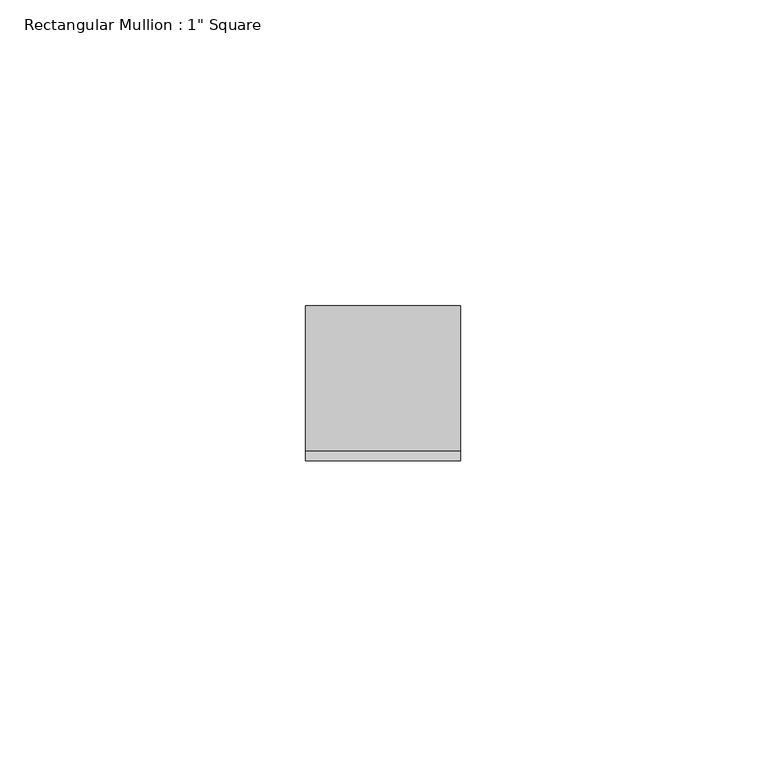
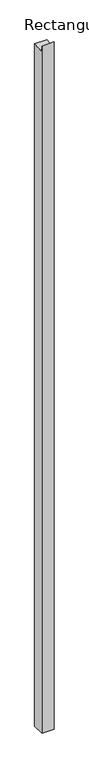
"""IFC4 building model written with IfcOpenShell, lengths in millimetres: member geometry."""

from ifc_helpers import new_model, si_unit, frame, origin, place, context, project, spatial, polyline, outline, extrude, source, transform, mapped, element, save


def member_5d503216(model_context):
    return source(origin(), model_context, "Body", "SweptSolid", [
        extrude(outline(polyline([(-12.7, 11.903125), (-11.0128906, -1.4878906), (12.7, 1.4996528), (12.7, -1485.9), (-12.7, -1485.9), (-12.7, 11.903125)])), frame((-25.4, 0.0, 0.0), z_axis=(1.0, 0.0, 0.0), x_axis=(0.0, 1.0, 0.0)), (0.0, 0.0, 1.0), 25.4),
    ])


if __name__ == "__main__":
    model = new_model("IFC4")
    model_context = context("Model", 3, world=origin())
    ifc_project = project(units=[si_unit("LENGTHUNIT", "METRE", prefix="MILLI")], contexts=[model_context])
    site = spatial("IfcSite", under=ifc_project)
    building = spatial("IfcBuilding", under=site)
    placement = place(None, origin())
    member_shape = member_5d503216(model_context)
    element("IfcMember", 1, ObjectType="Rectangular Mullion : 1\" Square", at=placement, inside=building, context=model_context, shape_type="MappedRepresentation", body=[
        mapped(member_shape, transform((0.0, 0.0, 0.0), x_axis=(1.0, 0.0, 0.0), y_axis=(0.0, 1.0, 0.0), z_axis=(0.0, 0.0, 1.0))),
    ])
    save(model, "model.ifc")
